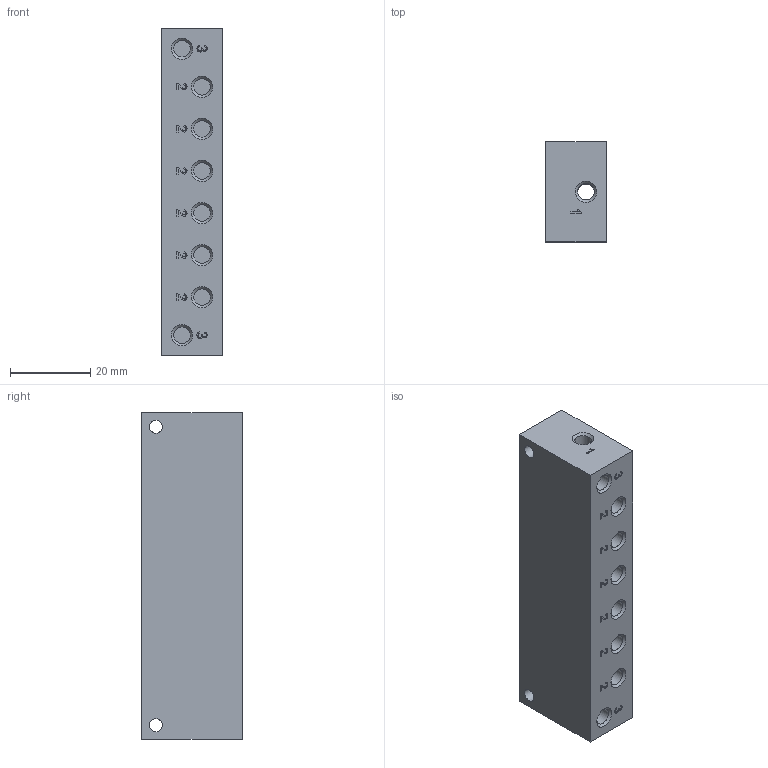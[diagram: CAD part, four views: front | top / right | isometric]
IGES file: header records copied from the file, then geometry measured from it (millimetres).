
Global section: file name: 395_06; native system: Autodesk Inventor 2014; preprocessor: unknown; author: R.Rivoltella; organization: Pneumax S.p.A.; date: 20161005.082408; units: millimetre
Bounding box: 15 x 25 x 81.5 mm (x, y, z)
Volume: 28379.2 mm3; surface area: 9367.7 mm2
Topology: 1 solids, 1 shells, 211 faces, 601 edges, 412 vertices
Faces by surface type: bspline 211
